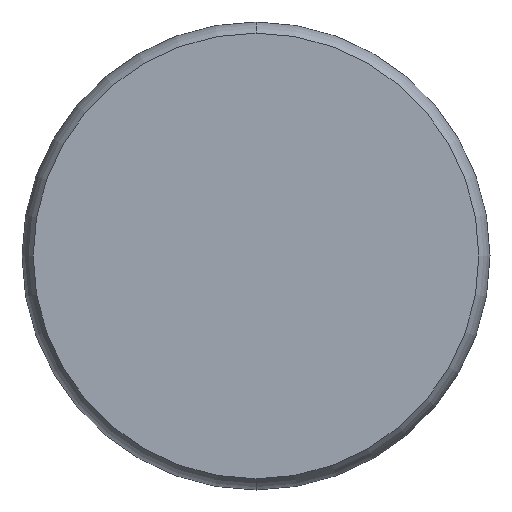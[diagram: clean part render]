
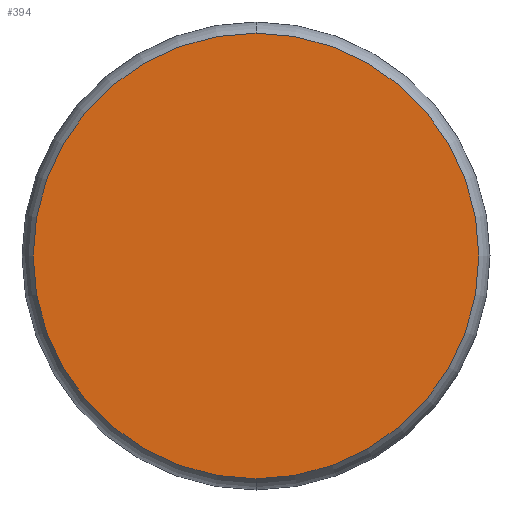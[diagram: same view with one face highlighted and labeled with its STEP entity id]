
A CAD part, front view. The second image highlights one B-rep face of the part: STEP entity #394.
In plain terms, the highlighted planar face has unit normal (0, -1, 0).
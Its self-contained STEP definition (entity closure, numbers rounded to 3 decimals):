
#24 = DIRECTION ( 'NONE',  ( 0., 0., 1. ) ) ;
#52 = VERTEX_POINT ( 'NONE', #527 ) ;
#93 = AXIS2_PLACEMENT_3D ( 'NONE', #438, #193, #433 ) ;
#97 = DIRECTION ( 'NONE',  ( 0., 1., 0. ) ) ;
#193 = DIRECTION ( 'NONE',  ( 0., 1., 0. ) ) ;
#249 = DIRECTION ( 'NONE',  ( 0., 1., 0. ) ) ;
#253 = ORIENTED_EDGE ( 'NONE', *, *, #568, .F. ) ;
#301 = ORIENTED_EDGE ( 'NONE', *, *, #538, .F. ) ;
#319 = VERTEX_POINT ( 'NONE', #530 ) ;
#394 = ADVANCED_FACE ( 'NONE', ( #626 ), #935, .F. ) ;
#416 = DIRECTION ( 'NONE',  ( 0., 0., 1. ) ) ;
#428 = AXIS2_PLACEMENT_3D ( 'NONE', #713, #97, #24 ) ;
#433 = DIRECTION ( 'NONE',  ( 0., 0., 1. ) ) ;
#438 = CARTESIAN_POINT ( 'NONE',  ( 0., 0., 0. ) ) ;
#477 = EDGE_LOOP ( 'NONE', ( #253, #301 ) ) ;
#478 = CIRCLE ( 'NONE', #428, 3. ) ;
#527 = CARTESIAN_POINT ( 'NONE',  ( 0., 0., 3. ) ) ;
#530 = CARTESIAN_POINT ( 'NONE',  ( 0., 0., -3. ) ) ;
#538 = EDGE_CURVE ( 'NONE', #319, #52, #866, .T. ) ;
#555 = CARTESIAN_POINT ( 'NONE',  ( 0., 0., -3. ) ) ;
#568 = EDGE_CURVE ( 'NONE', #52, #319, #478, .T. ) ;
#589 = AXIS2_PLACEMENT_3D ( 'NONE', #555, #249, #416 ) ;
#626 = FACE_OUTER_BOUND ( 'NONE', #477, .T. ) ;
#713 = CARTESIAN_POINT ( 'NONE',  ( 0., 0., 0. ) ) ;
#866 = CIRCLE ( 'NONE', #93, 3. ) ;
#935 = PLANE ( 'NONE',  #589 ) ;
